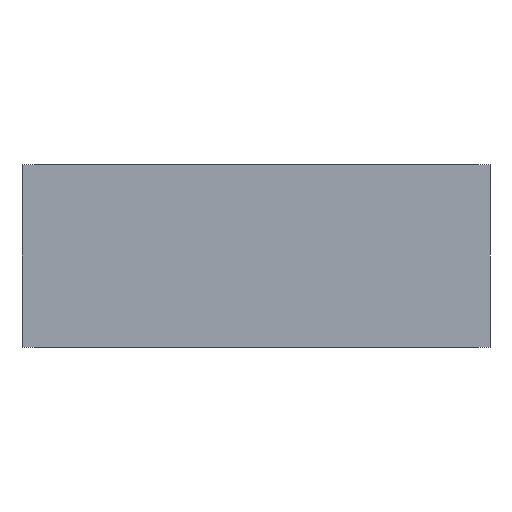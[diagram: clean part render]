
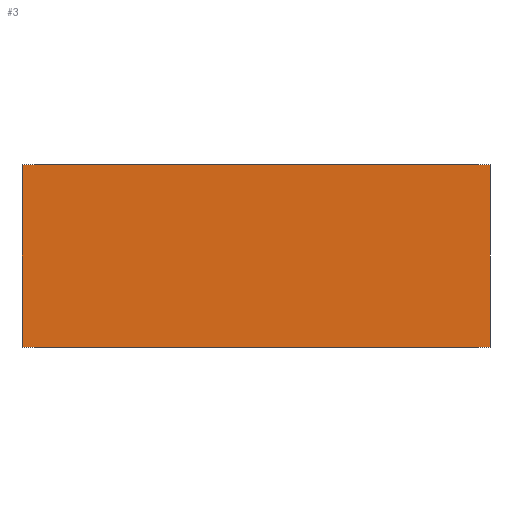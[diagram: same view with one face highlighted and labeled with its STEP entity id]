
A CAD part, front view. The second image highlights one B-rep face of the part: STEP entity #3.
In plain terms, the highlighted planar face has unit normal (0, -1, 0).
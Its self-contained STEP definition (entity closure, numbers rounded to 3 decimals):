
#3 = ADVANCED_FACE ( 'NONE', ( #195 ), #314, .F. ) ;
#67 = LINE ( 'NONE', #575, #251 ) ;
#70 = EDGE_LOOP ( 'NONE', ( #100, #170, #147, #148 ) ) ;
#90 = VECTOR ( 'NONE', #511, 1000. ) ;
#100 = ORIENTED_EDGE ( 'NONE', *, *, #408, .T. ) ;
#117 = LINE ( 'NONE', #508, #90 ) ;
#122 = VECTOR ( 'NONE', #519, 1000. ) ;
#147 = ORIENTED_EDGE ( 'NONE', *, *, #383, .F. ) ;
#148 = ORIENTED_EDGE ( 'NONE', *, *, #426, .T. ) ;
#170 = ORIENTED_EDGE ( 'NONE', *, *, #377, .F. ) ;
#195 = FACE_OUTER_BOUND ( 'NONE', #70, .T. ) ;
#220 = LINE ( 'NONE', #516, #122 ) ;
#240 = LINE ( 'NONE', #555, #241 ) ;
#241 = VECTOR ( 'NONE', #556, 1000. ) ;
#251 = VECTOR ( 'NONE', #576, 1000. ) ;
#287 = VERTEX_POINT ( 'NONE', #449 ) ;
#296 = VERTEX_POINT ( 'NONE', #457 ) ;
#298 = VERTEX_POINT ( 'NONE', #460 ) ;
#305 = VERTEX_POINT ( 'NONE', #461 ) ;
#314 = PLANE ( 'NONE',  #425 ) ;
#325 = DIRECTION ( 'NONE',  ( -1., 0., 0. ) ) ;
#326 = DIRECTION ( 'NONE',  ( 0., 1., 0. ) ) ;
#332 = CARTESIAN_POINT ( 'NONE',  ( -154., 0., 120. ) ) ;
#377 = EDGE_CURVE ( 'NONE', #287, #305, #117, .T. ) ;
#383 = EDGE_CURVE ( 'NONE', #296, #287, #220, .T. ) ;
#408 = EDGE_CURVE ( 'NONE', #298, #305, #240, .T. ) ;
#425 = AXIS2_PLACEMENT_3D ( 'NONE', #332, #326, #325 ) ;
#426 = EDGE_CURVE ( 'NONE', #296, #298, #67, .T. ) ;
#449 = CARTESIAN_POINT ( 'NONE',  ( 154., 0., 120. ) ) ;
#457 = CARTESIAN_POINT ( 'NONE',  ( -154., 0., 120. ) ) ;
#460 = CARTESIAN_POINT ( 'NONE',  ( -154., 0., 0. ) ) ;
#461 = CARTESIAN_POINT ( 'NONE',  ( 154., 0., 0. ) ) ;
#508 = CARTESIAN_POINT ( 'NONE',  ( 154., 0., 120. ) ) ;
#511 = DIRECTION ( 'NONE',  ( 0., 0., -1. ) ) ;
#516 = CARTESIAN_POINT ( 'NONE',  ( -154., 0., 120. ) ) ;
#519 = DIRECTION ( 'NONE',  ( 1., 0., 0. ) ) ;
#555 = CARTESIAN_POINT ( 'NONE',  ( -154., 0., 0. ) ) ;
#556 = DIRECTION ( 'NONE',  ( 1., 0., 0. ) ) ;
#575 = CARTESIAN_POINT ( 'NONE',  ( -154., 0., 120. ) ) ;
#576 = DIRECTION ( 'NONE',  ( 0., 0., -1. ) ) ;
